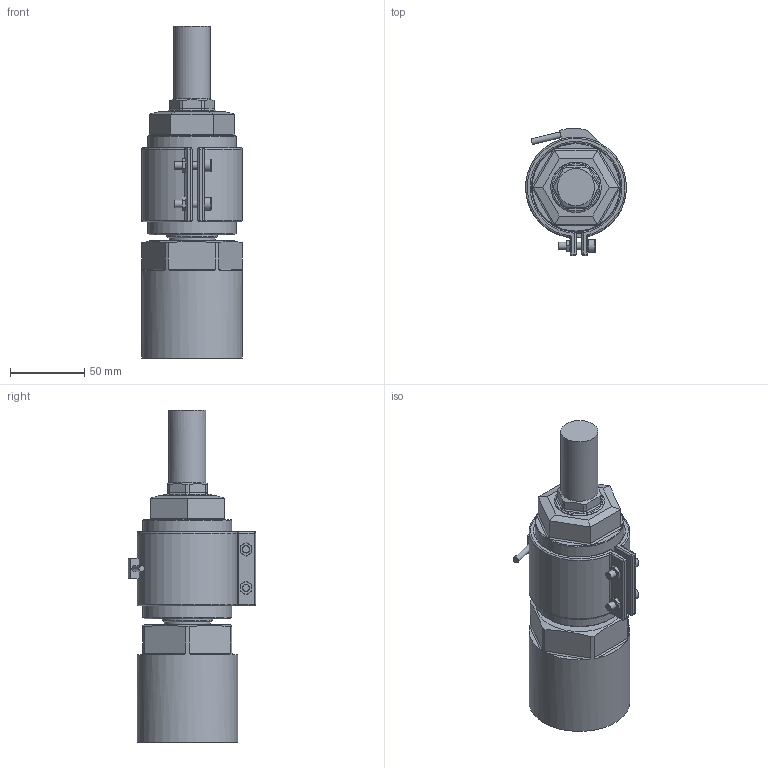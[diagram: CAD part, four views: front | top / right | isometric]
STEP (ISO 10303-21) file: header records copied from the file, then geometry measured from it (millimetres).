
FILE_DESCRIPTION(('STEP AP214'),'1');
FILE_NAME('FF300SL.stp','2018-06-15T11:37:12',(' '),(' '),'Spatial InterOp 3D',' ',' ');
FILE_SCHEMA(('AUTOMOTIVE_DESIGN { 1 0 10303 214 1 1 1 1 }'));
Length unit declared in the file: millimetre
Products named in the file (1): 1
Bounding box: 68 x 85.83 x 224 mm (x, y, z)
Volume: 584513.4 mm3; surface area: 92563.7 mm2
Topology: 9 solids, 9 shells, 235 faces, 540 edges, 325 vertices
Faces by surface type: plane 124, cylinder 67, cone 23, torus 12, bspline 6, revolution 3
Full cylindrical faces by diameter (mm): 4 x1, 4.2 x2, 5 x2, 5.5 x4, 8.5 x2, 25 x3, 31 x2, 31.4 x2, 34 x2, 60 x1, 68 x1
Entity records: 9187 total; most frequent: CARTESIAN_POINT 2324, DIRECTION 1028, ORIENTED_EDGE 940, EDGE_CURVE 470, AXIS2_PLACEMENT_3D 386, VERTEX_POINT 307, EDGE_LOOP 303, FACE_OUTER_BOUND 262
